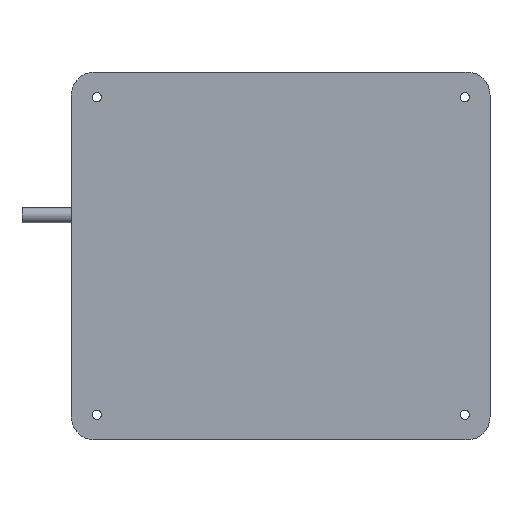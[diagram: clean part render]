
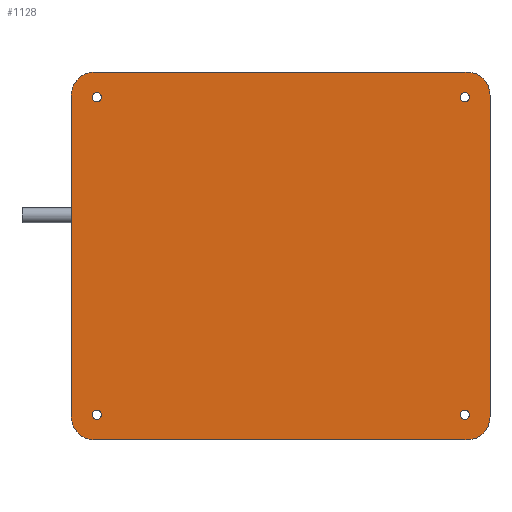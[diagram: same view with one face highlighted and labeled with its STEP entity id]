
A CAD part, front view. The second image highlights one B-rep face of the part: STEP entity #1128.
In plain terms, the highlighted planar face has unit normal (0, -1, 0).
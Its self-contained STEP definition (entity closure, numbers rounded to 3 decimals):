
#3 = CARTESIAN_POINT ( 'NONE',  ( -80., 0., 70. ) ) ;
#5 = CARTESIAN_POINT ( 'NONE',  ( 102., 0., 70. ) ) ;
#30 = CIRCLE ( 'NONE', #3776, 2. ) ;
#143 = CARTESIAN_POINT ( 'NONE',  ( 92., 0., 80. ) ) ;
#155 = EDGE_CURVE ( 'NONE', #1760, #3910, #1813, .T. ) ;
#159 = DIRECTION ( 'NONE',  ( 0., 0., 1. ) ) ;
#245 = CIRCLE ( 'NONE', #852, 10. ) ;
#250 = CIRCLE ( 'NONE', #1383, 2. ) ;
#253 = DIRECTION ( 'NONE',  ( -1., 0., 0. ) ) ;
#277 = CARTESIAN_POINT ( 'NONE',  ( -69., 0., 69. ) ) ;
#308 = CARTESIAN_POINT ( 'NONE',  ( -69., 0., -71. ) ) ;
#368 = AXIS2_PLACEMENT_3D ( 'NONE', #4230, #2819, #3166 ) ;
#369 = VERTEX_POINT ( 'NONE', #3 ) ;
#375 = VERTEX_POINT ( 'NONE', #308 ) ;
#381 = CIRCLE ( 'NONE', #3828, 10. ) ;
#397 = CARTESIAN_POINT ( 'NONE',  ( 0., 0., -80. ) ) ;
#453 = EDGE_CURVE ( 'NONE', #369, #2453, #381, .T. ) ;
#482 = AXIS2_PLACEMENT_3D ( 'NONE', #1767, #4303, #1081 ) ;
#499 = DIRECTION ( 'NONE',  ( 0., 1., 0. ) ) ;
#510 = VERTEX_POINT ( 'NONE', #3729 ) ;
#557 = CARTESIAN_POINT ( 'NONE',  ( -70., 0., -80. ) ) ;
#601 = CIRCLE ( 'NONE', #368, 2. ) ;
#603 = EDGE_CURVE ( 'NONE', #3142, #662, #3675, .T. ) ;
#612 = DIRECTION ( 'NONE',  ( 0., 1., 0. ) ) ;
#634 = CIRCLE ( 'NONE', #3691, 2. ) ;
#662 = VERTEX_POINT ( 'NONE', #2339 ) ;
#709 = CARTESIAN_POINT ( 'NONE',  ( 92., 0., -80. ) ) ;
#766 = ORIENTED_EDGE ( 'NONE', *, *, #4285, .T. ) ;
#805 = DIRECTION ( 'NONE',  ( 0., 0., 1. ) ) ;
#852 = AXIS2_PLACEMENT_3D ( 'NONE', #3281, #2183, #3616 ) ;
#906 = VERTEX_POINT ( 'NONE', #709 ) ;
#933 = CARTESIAN_POINT ( 'NONE',  ( -69., 0., 71. ) ) ;
#937 = DIRECTION ( 'NONE',  ( 0., 0., 1. ) ) ;
#941 = EDGE_CURVE ( 'NONE', #906, #3736, #2088, .T. ) ;
#957 = FACE_BOUND ( 'NONE', #2291, .T. ) ;
#1037 = DIRECTION ( 'NONE',  ( 0., 1., 0. ) ) ;
#1081 = DIRECTION ( 'NONE',  ( 0., 0., 1. ) ) ;
#1128 = ADVANCED_FACE ( 'NONE', ( #3485, #3390, #957, #1619, #1991 ), #2379, .F. ) ;
#1233 = DIRECTION ( 'NONE',  ( 0., 0., 1. ) ) ;
#1243 = DIRECTION ( 'NONE',  ( 0., 1., 0. ) ) ;
#1311 = ORIENTED_EDGE ( 'NONE', *, *, #2032, .F. ) ;
#1340 = ORIENTED_EDGE ( 'NONE', *, *, #155, .T. ) ;
#1348 = VERTEX_POINT ( 'NONE', #4097 ) ;
#1383 = AXIS2_PLACEMENT_3D ( 'NONE', #4258, #1037, #3542 ) ;
#1431 = VECTOR ( 'NONE', #2690, 1000. ) ;
#1433 = ORIENTED_EDGE ( 'NONE', *, *, #603, .T. ) ;
#1445 = VERTEX_POINT ( 'NONE', #143 ) ;
#1516 = AXIS2_PLACEMENT_3D ( 'NONE', #2096, #4191, #2348 ) ;
#1532 = CARTESIAN_POINT ( 'NONE',  ( 91., 0., -67. ) ) ;
#1555 = DIRECTION ( 'NONE',  ( 0., 1., 0. ) ) ;
#1567 = VECTOR ( 'NONE', #4411, 1000. ) ;
#1577 = DIRECTION ( 'NONE',  ( 0., 0., 1. ) ) ;
#1584 = AXIS2_PLACEMENT_3D ( 'NONE', #3846, #3438, #937 ) ;
#1619 = FACE_BOUND ( 'NONE', #2008, .T. ) ;
#1683 = ORIENTED_EDGE ( 'NONE', *, *, #1733, .T. ) ;
#1703 = VERTEX_POINT ( 'NONE', #5 ) ;
#1718 = ORIENTED_EDGE ( 'NONE', *, *, #1747, .F. ) ;
#1733 = EDGE_CURVE ( 'NONE', #662, #3142, #2722, .T. ) ;
#1747 = EDGE_CURVE ( 'NONE', #3736, #510, #245, .T. ) ;
#1755 = EDGE_LOOP ( 'NONE', ( #1433, #1683 ) ) ;
#1760 = VERTEX_POINT ( 'NONE', #1532 ) ;
#1767 = CARTESIAN_POINT ( 'NONE',  ( 91., 0., 69. ) ) ;
#1772 = EDGE_CURVE ( 'NONE', #3910, #1760, #634, .T. ) ;
#1813 = CIRCLE ( 'NONE', #1516, 2. ) ;
#1925 = CARTESIAN_POINT ( 'NONE',  ( 91., 0., 69. ) ) ;
#1949 = CARTESIAN_POINT ( 'NONE',  ( 91., 0., -69. ) ) ;
#1966 = CARTESIAN_POINT ( 'NONE',  ( -70., 0., 80. ) ) ;
#1991 = FACE_OUTER_BOUND ( 'NONE', #4616, .T. ) ;
#2008 = EDGE_LOOP ( 'NONE', ( #3191, #3646 ) ) ;
#2032 = EDGE_CURVE ( 'NONE', #510, #369, #4137, .T. ) ;
#2088 = LINE ( 'NONE', #397, #3299 ) ;
#2096 = CARTESIAN_POINT ( 'NONE',  ( 91., 0., -69. ) ) ;
#2183 = DIRECTION ( 'NONE',  ( 0., 1., 0. ) ) ;
#2245 = DIRECTION ( 'NONE',  ( 0., 0., 1. ) ) ;
#2246 = CARTESIAN_POINT ( 'NONE',  ( -70., 0., 70. ) ) ;
#2268 = CARTESIAN_POINT ( 'NONE',  ( -69., 0., 69. ) ) ;
#2291 = EDGE_LOOP ( 'NONE', ( #3636, #1340 ) ) ;
#2334 = EDGE_CURVE ( 'NONE', #1703, #4556, #4201, .T. ) ;
#2338 = CARTESIAN_POINT ( 'NONE',  ( 92., 0., 70. ) ) ;
#2339 = CARTESIAN_POINT ( 'NONE',  ( 91., 0., 71. ) ) ;
#2342 = EDGE_CURVE ( 'NONE', #4556, #906, #4054, .T. ) ;
#2348 = DIRECTION ( 'NONE',  ( 0., 0., 1. ) ) ;
#2379 = PLANE ( 'NONE',  #3175 ) ;
#2382 = CARTESIAN_POINT ( 'NONE',  ( 102., 0., -70. ) ) ;
#2399 = AXIS2_PLACEMENT_3D ( 'NONE', #1925, #2600, #1577 ) ;
#2453 = VERTEX_POINT ( 'NONE', #1966 ) ;
#2521 = EDGE_LOOP ( 'NONE', ( #3385, #766 ) ) ;
#2600 = DIRECTION ( 'NONE',  ( 0., 1., 0. ) ) ;
#2641 = VECTOR ( 'NONE', #3468, 1000. ) ;
#2690 = DIRECTION ( 'NONE',  ( 0., 0., -1. ) ) ;
#2722 = CIRCLE ( 'NONE', #482, 2. ) ;
#2751 = ORIENTED_EDGE ( 'NONE', *, *, #2334, .F. ) ;
#2764 = EDGE_CURVE ( 'NONE', #375, #4196, #601, .T. ) ;
#2799 = CARTESIAN_POINT ( 'NONE',  ( -69., 0., -67. ) ) ;
#2810 = EDGE_CURVE ( 'NONE', #1348, #3444, #2908, .T. ) ;
#2819 = DIRECTION ( 'NONE',  ( 0., 1., 0. ) ) ;
#2900 = CARTESIAN_POINT ( 'NONE',  ( 0., 0., 80. ) ) ;
#2908 = CIRCLE ( 'NONE', #3703, 2. ) ;
#2974 = EDGE_CURVE ( 'NONE', #2453, #1445, #4337, .T. ) ;
#3095 = CARTESIAN_POINT ( 'NONE',  ( -80., 0., 70. ) ) ;
#3108 = ORIENTED_EDGE ( 'NONE', *, *, #941, .F. ) ;
#3142 = VERTEX_POINT ( 'NONE', #3819 ) ;
#3164 = CARTESIAN_POINT ( 'NONE',  ( 102., 0., -70. ) ) ;
#3166 = DIRECTION ( 'NONE',  ( 0., 0., 1. ) ) ;
#3175 = AXIS2_PLACEMENT_3D ( 'NONE', #4499, #612, #1233 ) ;
#3191 = ORIENTED_EDGE ( 'NONE', *, *, #2764, .T. ) ;
#3281 = CARTESIAN_POINT ( 'NONE',  ( -70., 0., -70. ) ) ;
#3299 = VECTOR ( 'NONE', #253, 1000. ) ;
#3385 = ORIENTED_EDGE ( 'NONE', *, *, #2810, .T. ) ;
#3390 = FACE_BOUND ( 'NONE', #1755, .T. ) ;
#3438 = DIRECTION ( 'NONE',  ( 0., 1., 0. ) ) ;
#3444 = VERTEX_POINT ( 'NONE', #933 ) ;
#3468 = DIRECTION ( 'NONE',  ( 0., 0., 1. ) ) ;
#3485 = FACE_BOUND ( 'NONE', #2521, .T. ) ;
#3542 = DIRECTION ( 'NONE',  ( 0., 0., 1. ) ) ;
#3553 = AXIS2_PLACEMENT_3D ( 'NONE', #2338, #499, #159 ) ;
#3616 = DIRECTION ( 'NONE',  ( 0., 0., 1. ) ) ;
#3625 = CIRCLE ( 'NONE', #3553, 10. ) ;
#3636 = ORIENTED_EDGE ( 'NONE', *, *, #1772, .T. ) ;
#3646 = ORIENTED_EDGE ( 'NONE', *, *, #4246, .T. ) ;
#3668 = ORIENTED_EDGE ( 'NONE', *, *, #2342, .F. ) ;
#3675 = CIRCLE ( 'NONE', #2399, 2. ) ;
#3691 = AXIS2_PLACEMENT_3D ( 'NONE', #1949, #1243, #4093 ) ;
#3703 = AXIS2_PLACEMENT_3D ( 'NONE', #277, #3899, #3879 ) ;
#3729 = CARTESIAN_POINT ( 'NONE',  ( -80., 0., -70. ) ) ;
#3736 = VERTEX_POINT ( 'NONE', #557 ) ;
#3776 = AXIS2_PLACEMENT_3D ( 'NONE', #2268, #4038, #2245 ) ;
#3819 = CARTESIAN_POINT ( 'NONE',  ( 91., 0., 67. ) ) ;
#3828 = AXIS2_PLACEMENT_3D ( 'NONE', #2246, #1555, #805 ) ;
#3846 = CARTESIAN_POINT ( 'NONE',  ( 92., 0., -70. ) ) ;
#3879 = DIRECTION ( 'NONE',  ( 0., 0., 1. ) ) ;
#3899 = DIRECTION ( 'NONE',  ( 0., 1., 0. ) ) ;
#3910 = VERTEX_POINT ( 'NONE', #4347 ) ;
#4038 = DIRECTION ( 'NONE',  ( 0., 1., 0. ) ) ;
#4054 = CIRCLE ( 'NONE', #1584, 10. ) ;
#4079 = ORIENTED_EDGE ( 'NONE', *, *, #453, .F. ) ;
#4093 = DIRECTION ( 'NONE',  ( 0., 0., 1. ) ) ;
#4097 = CARTESIAN_POINT ( 'NONE',  ( -69., 0., 67. ) ) ;
#4137 = LINE ( 'NONE', #3095, #2641 ) ;
#4191 = DIRECTION ( 'NONE',  ( 0., 1., 0. ) ) ;
#4196 = VERTEX_POINT ( 'NONE', #2799 ) ;
#4201 = LINE ( 'NONE', #2382, #1431 ) ;
#4230 = CARTESIAN_POINT ( 'NONE',  ( -69., 0., -69. ) ) ;
#4246 = EDGE_CURVE ( 'NONE', #4196, #375, #250, .T. ) ;
#4258 = CARTESIAN_POINT ( 'NONE',  ( -69., 0., -69. ) ) ;
#4285 = EDGE_CURVE ( 'NONE', #3444, #1348, #30, .T. ) ;
#4303 = DIRECTION ( 'NONE',  ( 0., 1., 0. ) ) ;
#4337 = LINE ( 'NONE', #2900, #1567 ) ;
#4347 = CARTESIAN_POINT ( 'NONE',  ( 91., 0., -71. ) ) ;
#4386 = EDGE_CURVE ( 'NONE', #1445, #1703, #3625, .T. ) ;
#4405 = ORIENTED_EDGE ( 'NONE', *, *, #2974, .F. ) ;
#4411 = DIRECTION ( 'NONE',  ( 1., 0., 0. ) ) ;
#4499 = CARTESIAN_POINT ( 'NONE',  ( 0.003, 0., 0. ) ) ;
#4556 = VERTEX_POINT ( 'NONE', #3164 ) ;
#4588 = ORIENTED_EDGE ( 'NONE', *, *, #4386, .F. ) ;
#4616 = EDGE_LOOP ( 'NONE', ( #4588, #4405, #4079, #1311, #1718, #3108, #3668, #2751 ) ) ;
